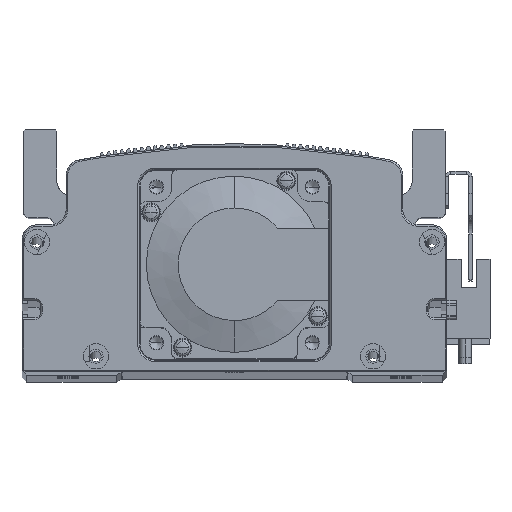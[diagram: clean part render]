
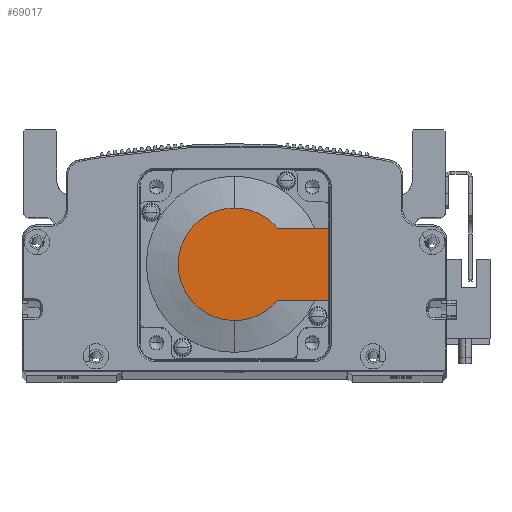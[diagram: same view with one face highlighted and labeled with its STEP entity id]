
A CAD part, top view. The second image highlights one B-rep face of the part: STEP entity #69017.
In plain terms, the highlighted planar face has unit normal (0, 0, 1) as drawn and (-1, 0, 0) by its records, which use the part's own axes.
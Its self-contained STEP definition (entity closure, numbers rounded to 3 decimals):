
#1085 = AXIS2_PLACEMENT_3D ( 'NONE', #65226, #43640, #64551 ) ;
#1408 = CARTESIAN_POINT ( 'NONE',  ( -118.5, 0., 0. ) ) ;
#2165 = VECTOR ( 'NONE', #49886, 1000. ) ;
#3251 = VERTEX_POINT ( 'NONE', #34513 ) ;
#5535 = VERTEX_POINT ( 'NONE', #7969 ) ;
#6674 = ORIENTED_EDGE ( 'NONE', *, *, #16191, .T. ) ;
#6942 = CIRCLE ( 'NONE', #45894, 17.881 ) ;
#7267 = ORIENTED_EDGE ( 'NONE', *, *, #62980, .T. ) ;
#7833 = DIRECTION ( 'NONE',  ( -1., 0., 0. ) ) ;
#7969 = CARTESIAN_POINT ( 'NONE',  ( -118.5, 30., -11.45 ) ) ;
#9030 = LINE ( 'NONE', #65834, #2165 ) ;
#11422 = CARTESIAN_POINT ( 'NONE',  ( -118.5, 30., 11.45 ) ) ;
#14030 = ORIENTED_EDGE ( 'NONE', *, *, #20338, .T. ) ;
#14461 = VERTEX_POINT ( 'NONE', #60865 ) ;
#16191 = EDGE_CURVE ( 'NONE', #14461, #66620, #6942, .T. ) ;
#17046 = CARTESIAN_POINT ( 'NONE',  ( -118.5, 0., 11.45 ) ) ;
#17524 = DIRECTION ( 'NONE',  ( 0., -1., 0. ) ) ;
#17821 = CARTESIAN_POINT ( 'NONE',  ( -118.5, -8.941, 0. ) ) ;
#17823 = DIRECTION ( 'NONE',  ( 0., 0., -1. ) ) ;
#19006 = VECTOR ( 'NONE', #61676, 1000. ) ;
#20338 = EDGE_CURVE ( 'NONE', #27002, #3251, #49009, .T. ) ;
#23769 = DIRECTION ( 'NONE',  ( -1., 0., 0. ) ) ;
#27002 = VERTEX_POINT ( 'NONE', #63634 ) ;
#29887 = CARTESIAN_POINT ( 'NONE',  ( -118.5, -8.941, -11.45 ) ) ;
#29994 = CIRCLE ( 'NONE', #41977, 17.881 ) ;
#32197 = VERTEX_POINT ( 'NONE', #11422 ) ;
#34513 = CARTESIAN_POINT ( 'NONE',  ( -118.5, 0., -17.881 ) ) ;
#35116 = LINE ( 'NONE', #29887, #19006 ) ;
#36033 = ORIENTED_EDGE ( 'NONE', *, *, #45708, .T. ) ;
#36110 = FACE_OUTER_BOUND ( 'NONE', #57893, .T. ) ;
#37603 = CARTESIAN_POINT ( 'NONE',  ( -118.5, 13.735, 11.45 ) ) ;
#41977 = AXIS2_PLACEMENT_3D ( 'NONE', #42120, #52542, #58239 ) ;
#42120 = CARTESIAN_POINT ( 'NONE',  ( -118.5, 0., 0. ) ) ;
#43640 = DIRECTION ( 'NONE',  ( -1., 0., 0. ) ) ;
#44058 = EDGE_CURVE ( 'NONE', #32197, #66620, #57343, .T. ) ;
#44835 = PLANE ( 'NONE',  #49946 ) ;
#45708 = EDGE_CURVE ( 'NONE', #5535, #27002, #35116, .T. ) ;
#45894 = AXIS2_PLACEMENT_3D ( 'NONE', #1408, #23769, #17823 ) ;
#49009 = CIRCLE ( 'NONE', #1085, 17.881 ) ;
#49886 = DIRECTION ( 'NONE',  ( 0., 0., 1. ) ) ;
#49946 = AXIS2_PLACEMENT_3D ( 'NONE', #17821, #7833, #56474 ) ;
#51537 = ORIENTED_EDGE ( 'NONE', *, *, #68415, .F. ) ;
#52542 = DIRECTION ( 'NONE',  ( -1., 0., 0. ) ) ;
#56474 = DIRECTION ( 'NONE',  ( 0., 0., 1. ) ) ;
#57343 = LINE ( 'NONE', #17046, #67604 ) ;
#57893 = EDGE_LOOP ( 'NONE', ( #36033, #14030, #7267, #6674, #62778, #51537 ) ) ;
#58239 = DIRECTION ( 'NONE',  ( 0., 0., -1. ) ) ;
#60865 = CARTESIAN_POINT ( 'NONE',  ( -118.5, 0., 17.881 ) ) ;
#61676 = DIRECTION ( 'NONE',  ( 0., -1., 0. ) ) ;
#62778 = ORIENTED_EDGE ( 'NONE', *, *, #44058, .F. ) ;
#62980 = EDGE_CURVE ( 'NONE', #3251, #14461, #29994, .T. ) ;
#63634 = CARTESIAN_POINT ( 'NONE',  ( -118.5, 13.735, -11.45 ) ) ;
#64551 = DIRECTION ( 'NONE',  ( 0., 0., -1. ) ) ;
#65226 = CARTESIAN_POINT ( 'NONE',  ( -118.5, 0., 0. ) ) ;
#65834 = CARTESIAN_POINT ( 'NONE',  ( -118.5, 30., 25. ) ) ;
#66620 = VERTEX_POINT ( 'NONE', #37603 ) ;
#67604 = VECTOR ( 'NONE', #17524, 1000. ) ;
#68415 = EDGE_CURVE ( 'NONE', #5535, #32197, #9030, .T. ) ;
#69017 = ADVANCED_FACE ( 'NONE', ( #36110 ), #44835, .T. ) ;
